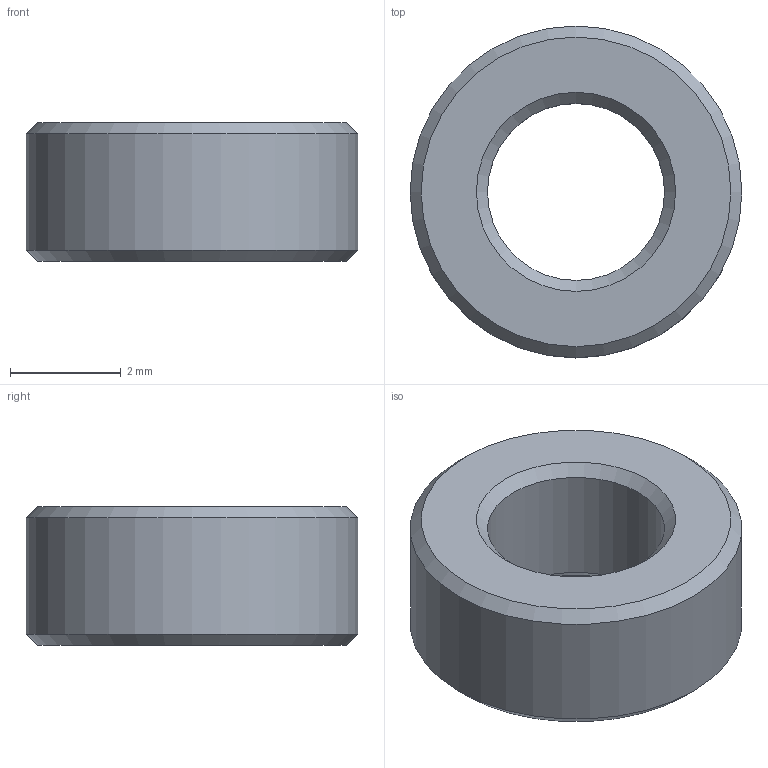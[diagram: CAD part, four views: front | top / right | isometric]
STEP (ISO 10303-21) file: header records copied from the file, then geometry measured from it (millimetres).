
FILE_DESCRIPTION(('Open CASCADE Model'),'2;1');
FILE_NAME('Open CASCADE Shape Model','2026-11-05T10:33:08',('Author'),( 'Open CASCADE'),'Open CASCADE STEP processor 8.0','build123d', 'Unknown');
FILE_SCHEMA(('AUTOMOTIVE_DESIGN { 1 0 10303 214 1 1 1 1 }'));
Length unit declared in the file: millimetre
Products named in the file (1): COMPOUND
Bounding box: 6 x 6 x 2.5 mm (x, y, z)
Volume: 49.4 mm3; surface area: 105.9 mm2
Topology: 1 solids, 1 shells, 8 faces, 14 edges, 8 vertices
Faces by surface type: cone 4, cylinder 2, plane 2
Full cylindrical faces by diameter (mm): 3.2 x1, 6 x1
Entity records: 382 total; most frequent: CARTESIAN_POINT 67, DIRECTION 60, ORIENTED_EDGE 28, PCURVE 28, DEFINITIONAL_REPRESENTATION 28, LINE 22, VECTOR 22, AXIS2_PLACEMENT_3D 17
